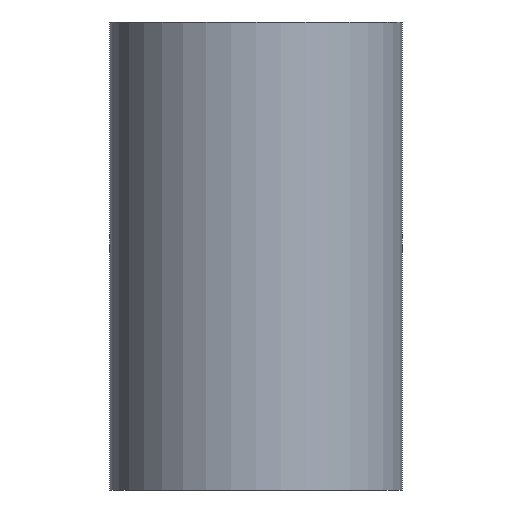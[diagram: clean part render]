
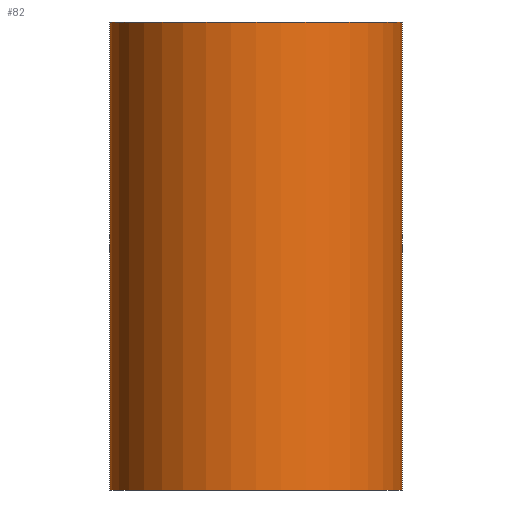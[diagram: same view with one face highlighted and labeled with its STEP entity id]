
A CAD part, front view. The second image highlights one B-rep face of the part: STEP entity #82.
In plain terms, the highlighted cylindrical face has radius 5 mm (diameter 10 mm), a full revolution.
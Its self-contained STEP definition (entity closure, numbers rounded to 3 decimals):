
#38=FACE_OUTER_BOUND('',#42,.T.);
#42=EDGE_LOOP('',(#71,#72,#73,#74));
#48=LINE('',#165,#50);
#50=VECTOR('',#135,5.);
#53=CIRCLE('',#112,5.);
#54=CIRCLE('',#113,5.);
#59=VERTEX_POINT('',#162);
#60=VERTEX_POINT('',#164);
#64=EDGE_CURVE('',#59,#59,#53,.T.);
#65=EDGE_CURVE('',#59,#60,#48,.T.);
#66=EDGE_CURVE('',#60,#60,#54,.T.);
#71=ORIENTED_EDGE('',*,*,#64,.F.);
#72=ORIENTED_EDGE('',*,*,#65,.T.);
#73=ORIENTED_EDGE('',*,*,#66,.T.);
#74=ORIENTED_EDGE('',*,*,#65,.F.);
#80=CYLINDRICAL_SURFACE('',#111,5.);
#82=ADVANCED_FACE('',(#38),#80,.T.);
#111=AXIS2_PLACEMENT_3D('',#161,#131,#132);
#112=AXIS2_PLACEMENT_3D('',#163,#133,#134);
#113=AXIS2_PLACEMENT_3D('',#166,#136,#137);
#131=DIRECTION('center_axis',(0.,0.,1.));
#132=DIRECTION('ref_axis',(1.,0.,0.));
#133=DIRECTION('center_axis',(0.,0.,1.));
#134=DIRECTION('ref_axis',(1.,0.,0.));
#135=DIRECTION('',(0.,0.,-1.));
#136=DIRECTION('center_axis',(0.,0.,1.));
#137=DIRECTION('ref_axis',(1.,0.,0.));
#161=CARTESIAN_POINT('Origin',(0.,0.,0.));
#162=CARTESIAN_POINT('',(-5.,0.,16.));
#163=CARTESIAN_POINT('Origin',(0.,0.,16.));
#164=CARTESIAN_POINT('',(-5.,0.,0.));
#165=CARTESIAN_POINT('',(-5.,0.,0.));
#166=CARTESIAN_POINT('Origin',(0.,0.,0.));
